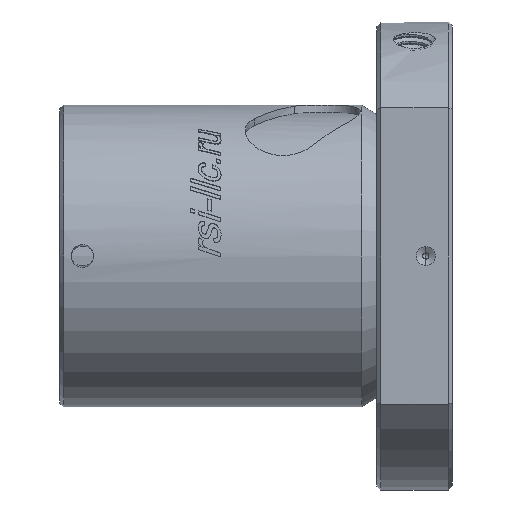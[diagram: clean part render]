
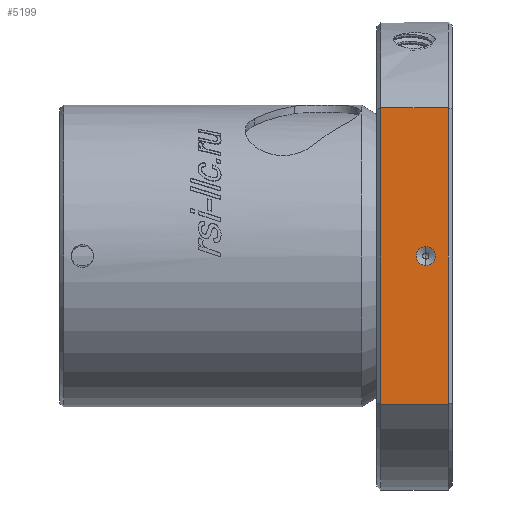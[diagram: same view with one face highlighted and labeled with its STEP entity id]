
A CAD part, left-side view. The second image highlights one B-rep face of the part: STEP entity #5199.
In plain terms, the highlighted planar face has unit normal (-1, 0, 0).
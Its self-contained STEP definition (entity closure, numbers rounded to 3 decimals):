
#842 = DIRECTION ( 'NONE',  ( 0., -1., 0. ) ) ;
#1054 = AXIS2_PLACEMENT_3D ( 'NONE', #9828, #24055, #11848 ) ;
#1220 = LINE ( 'NONE', #18475, #16787 ) ;
#1449 = VERTEX_POINT ( 'NONE', #5773 ) ;
#1476 = ORIENTED_EDGE ( 'NONE', *, *, #8989, .F. ) ;
#1782 = LINE ( 'NONE', #10849, #22731 ) ;
#2756 = CARTESIAN_POINT ( 'NONE',  ( -24., -4.5, 19.621 ) ) ;
#3371 = VECTOR ( 'NONE', #21652, 1000. ) ;
#4173 = EDGE_LOOP ( 'NONE', ( #26231, #17203, #1476, #8828 ) ) ;
#5199 = ADVANCED_FACE ( 'NONE', ( #24212, #8650 ), #25459, .F. ) ;
#5773 = CARTESIAN_POINT ( 'NONE',  ( -24., 4.5, 19.621 ) ) ;
#7454 = CARTESIAN_POINT ( 'NONE',  ( -24., 4.5, -19.621 ) ) ;
#7607 = CIRCLE ( 'NONE', #1054, 1.25 ) ;
#8339 = DIRECTION ( 'NONE',  ( 0., 0., 1. ) ) ;
#8650 = FACE_OUTER_BOUND ( 'NONE', #4173, .T. ) ;
#8828 = ORIENTED_EDGE ( 'NONE', *, *, #9334, .T. ) ;
#8989 = EDGE_CURVE ( 'NONE', #1449, #17764, #1782, .T. ) ;
#9130 = AXIS2_PLACEMENT_3D ( 'NONE', #10506, #24745, #12536 ) ;
#9334 = EDGE_CURVE ( 'NONE', #1449, #13701, #13513, .T. ) ;
#9688 = EDGE_LOOP ( 'NONE', ( #24256, #9717 ) ) ;
#9709 = DIRECTION ( 'NONE',  ( 1., 0., 0. ) ) ;
#9715 = VERTEX_POINT ( 'NONE', #17734 ) ;
#9717 = ORIENTED_EDGE ( 'NONE', *, *, #14410, .F. ) ;
#9828 = CARTESIAN_POINT ( 'NONE',  ( -24., -1.5, 0. ) ) ;
#9951 = VERTEX_POINT ( 'NONE', #24544 ) ;
#10506 = CARTESIAN_POINT ( 'NONE',  ( -24., -1.5, 0. ) ) ;
#10849 = CARTESIAN_POINT ( 'NONE',  ( -24., 5., 19.621 ) ) ;
#10853 = CARTESIAN_POINT ( 'NONE',  ( -24., -1.5, -1.25 ) ) ;
#11214 = CARTESIAN_POINT ( 'NONE',  ( -24., 5., -19.621 ) ) ;
#11281 = CARTESIAN_POINT ( 'NONE',  ( -24., 4.5, -19.621 ) ) ;
#11848 = DIRECTION ( 'NONE',  ( 0., 0., 1. ) ) ;
#12536 = DIRECTION ( 'NONE',  ( 0., 0., 1. ) ) ;
#13513 = LINE ( 'NONE', #7454, #3371 ) ;
#13701 = VERTEX_POINT ( 'NONE', #11281 ) ;
#13705 = AXIS2_PLACEMENT_3D ( 'NONE', #11214, #9709, #23924 ) ;
#14318 = EDGE_CURVE ( 'NONE', #13701, #9951, #22842, .T. ) ;
#14410 = EDGE_CURVE ( 'NONE', #18363, #9715, #25094, .T. ) ;
#15747 = EDGE_CURVE ( 'NONE', #9951, #17764, #1220, .T. ) ;
#16787 = VECTOR ( 'NONE', #8339, 1000. ) ;
#16833 = VECTOR ( 'NONE', #22311, 1000. ) ;
#17203 = ORIENTED_EDGE ( 'NONE', *, *, #15747, .T. ) ;
#17734 = CARTESIAN_POINT ( 'NONE',  ( -24., -1.5, 1.25 ) ) ;
#17764 = VERTEX_POINT ( 'NONE', #2756 ) ;
#18111 = EDGE_CURVE ( 'NONE', #9715, #18363, #7607, .T. ) ;
#18363 = VERTEX_POINT ( 'NONE', #10853 ) ;
#18475 = CARTESIAN_POINT ( 'NONE',  ( -24., -4.5, -19.621 ) ) ;
#20305 = CARTESIAN_POINT ( 'NONE',  ( -24., 5., -19.621 ) ) ;
#21652 = DIRECTION ( 'NONE',  ( 0., 0., -1. ) ) ;
#22311 = DIRECTION ( 'NONE',  ( 0., -1., 0. ) ) ;
#22731 = VECTOR ( 'NONE', #842, 1000. ) ;
#22842 = LINE ( 'NONE', #20305, #16833 ) ;
#23924 = DIRECTION ( 'NONE',  ( 0., 0., -1. ) ) ;
#24055 = DIRECTION ( 'NONE',  ( -1., 0., 0. ) ) ;
#24212 = FACE_BOUND ( 'NONE', #9688, .T. ) ;
#24256 = ORIENTED_EDGE ( 'NONE', *, *, #18111, .F. ) ;
#24544 = CARTESIAN_POINT ( 'NONE',  ( -24., -4.5, -19.621 ) ) ;
#24745 = DIRECTION ( 'NONE',  ( -1., 0., 0. ) ) ;
#25094 = CIRCLE ( 'NONE', #9130, 1.25 ) ;
#25459 = PLANE ( 'NONE',  #13705 ) ;
#26231 = ORIENTED_EDGE ( 'NONE', *, *, #14318, .T. ) ;
